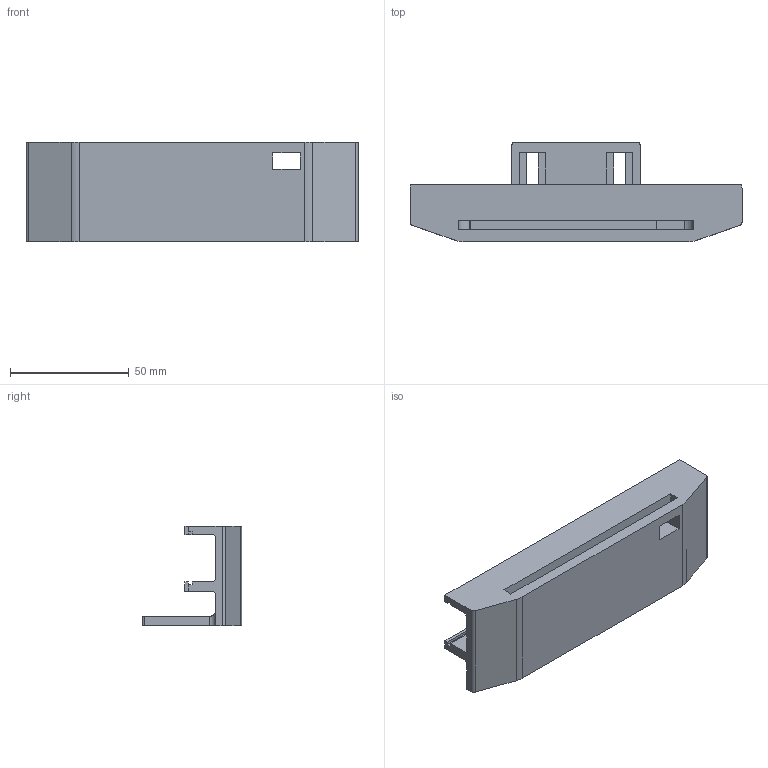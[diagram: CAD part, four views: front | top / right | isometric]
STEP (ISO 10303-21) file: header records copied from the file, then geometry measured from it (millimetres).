
FILE_DESCRIPTION(/* description */ (''),/* implementation_level */ '2;1');
FILE_NAME(/* name */ 'Front Cover_Part 03.stp',/* time_stamp */ '2025-08-28T02:57:24+09:00',/* author */ (''),/* organization */ (''),/* preprocessor_version */ 'ST-DEVELOPER v11',/* originating_system */ 'SIEMENS PLM Software NX 7.5',/* authorisation */ '');
FILE_SCHEMA (('CONFIG_CONTROL_DESIGN'));
Length unit declared in the file: millimetre
Products named in the file (1): gyunFAD7nv2b
Bounding box: 140 x 42 x 42 mm (x, y, z)
Volume: 66651.6 mm3; surface area: 25863 mm2
Topology: 1 solids, 1 shells, 74 faces, 212 edges, 140 vertices
Faces by surface type: plane 57, cylinder 17
Full cylindrical faces by diameter (mm): 10 x2
Entity records: 2494 total; most frequent: CARTESIAN_POINT 426, ORIENTED_EDGE 420, DIRECTION 396, EDGE_CURVE 210, LINE 176, VECTOR 176, VERTEX_POINT 140, AXIS2_PLACEMENT_3D 110
